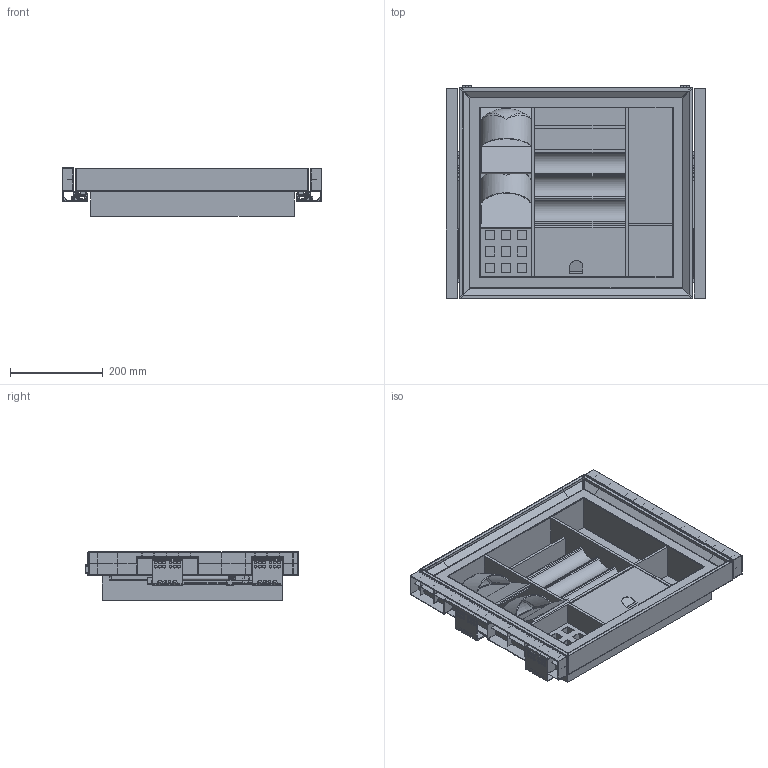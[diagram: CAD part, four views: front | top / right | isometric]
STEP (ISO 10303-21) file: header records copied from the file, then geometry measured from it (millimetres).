
FILE_DESCRIPTION(/* description */ ('STEP AP242 Edition 2','CAx-IF Rec.Pracs.---Representation and Presentation of Product Manufacturing Information (PMI)---4.0---2014-10-13','CAx-IF Rec.Pracs.---3D Tessellated Geometry---0.4---2014-09-14','2;1','CAx-IF Rec.Pracs.---User Defined Attributes---1.5---2016-08-15'),/* implementation_level */ '2;1');
FILE_NAME(/* name */ '6a0ec85c93d4219ca213ca3b',/* time_stamp */ '2026-05-21T08:54:57Z',/* author */ (''),/* organization */ (''),/* preprocessor_version */ 'ST-DEVELOPER v20',/* originating_system */ 'ONSHAPE BY PTC INC, 1.215',/* authorisation */ ' ');
FILE_SCHEMA (('AP242_MANAGED_MODEL_BASED_3D_ENGINEERING_MIM_LF { 1 0 10303 442 3 1 4 }'));
Products named in the file (49): 600 assembly; Part 1; Part 5; Part 9; Part 3; Part 8; Part 7; Part 2; Part 4; Part 10; Part 6; assembly 600 (564mm) <1>; Part 20; Part 18; Part 14; Part 12; Part 23; Part 15; Part 19; Part 13; Part 22; Part 11; Part 24; Part 17; Part 16; Part 21
Assembly tree (49 placements, depth 3):
  600 assembly
    Part 1  x2
    Part 5
    Part 9
    Part 3
    Part 8
    Part 7
    Part 2
    Part 4
    Part 10
    Part 6
    Part 1
    assembly 600 (564mm) <1>
      Part 20
      Part 7
      Part 18
      Part 2
      Part 14
      Part 2
      Part 12
      Part 23
      Part 2
      Part 6
      Part 15
      Part 4
      Part 1
      Part 1
      Part 5
      Part 19
      Part 13
      Part 3
      Part 4
      Part 9
      Part 22
      Part 11
      Part 24
      Part 1
      Part 7
      Part 17
      Part 3
      Part 16
      Part 8
      Part 10
      Part 9
      Part 5
      Part 8
      Part 10
      Part 6
      Part 21
Bounding box: 559.35 x 459.99 x 103.63 mm (x, y, z)
Volume: 6783220.3 mm3; surface area: 2872420.5 mm2
Topology: 48 solids, 48 shells, 4720 faces, 12167 edges, 7256 vertices
Faces by surface type: plane 2432, cylinder 1526, torus 352, sphere 344, bspline 64, cone 2
Full cylindrical faces by diameter (mm): 2 x2, 2.1 x2, 2.45 x2, 2.5 x2, 2.6 x2, 4 x4, 4.5 x2, 6 x56, 9 x2
Entity records: 140422 total; most frequent: CARTESIAN_POINT 25410, DIRECTION 24275, ORIENTED_EDGE 23346, EDGE_CURVE 11673, AXIS2_PLACEMENT_3D 8102, LINE 8071, VECTOR 8071, VERTEX_POINT 7214
